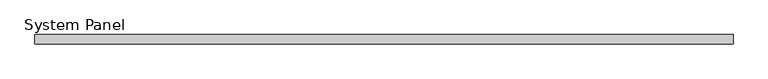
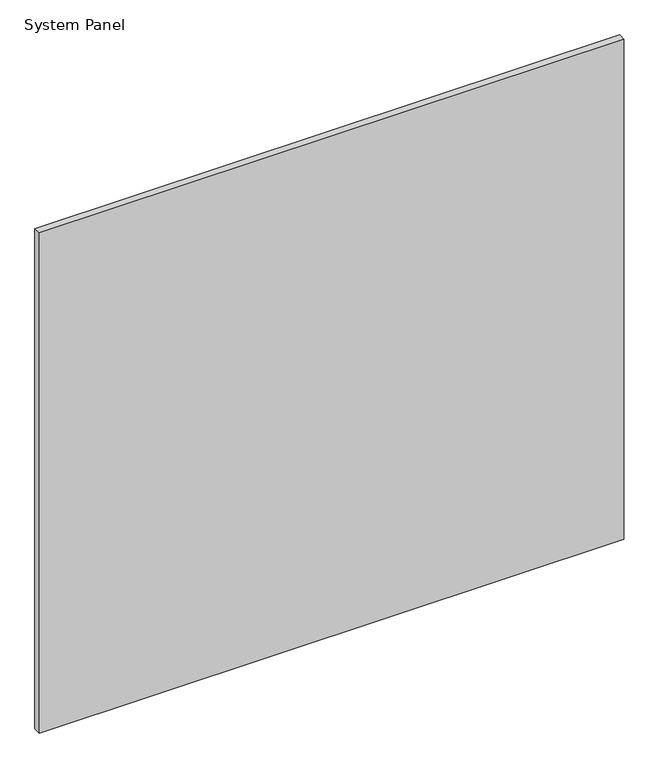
"""IFC4 building model written with IfcOpenShell, lengths in millimetres: plate geometry, System Panel : GUARDA-CORPO DE VIDRO TEMPERADO LAMINADO LISO 16 mm."""

from ifc_helpers import new_model, si_unit, origin, origin_with_axes, place, context, project, spatial, polyline, outline, extrude, source, transform, mapped, element, save


def system_panel_374318f6(model_context):
    return source(origin(), model_context, "Body", "SweptSolid", [
        extrude(outline(polyline([(608.0548498, -8.0), (-608.0548498, -8.0), (-608.0548498, 8.0), (608.0548498, 8.0), (608.0548498, -8.0)])), origin_with_axes(), (0.0, 0.0, 1.0), 1100.0),
    ])


if __name__ == "__main__":
    model = new_model("IFC4")
    model_context = context("Model", 3, world=origin())
    ifc_project = project(units=[si_unit("LENGTHUNIT", "METRE", prefix="MILLI")], contexts=[model_context])
    site = spatial("IfcSite", under=ifc_project)
    building = spatial("IfcBuilding", under=site)
    placement = place(None, origin())
    system_panel_shape = system_panel_374318f6(model_context)
    element("IfcPlate", 1, ObjectType="System Panel : GUARDA-CORPO DE VIDRO TEMPERADO LAMINADO LISO 16 mm", at=placement, inside=building, context=model_context, shape_type="MappedRepresentation", body=[
        mapped(system_panel_shape, transform((0.0, 0.0, 0.0), x_axis=(1.0, 0.0, 0.0), y_axis=(0.0, 1.0, 0.0), z_axis=(0.0, 0.0, 1.0))),
    ])
    save(model, "model.ifc")
